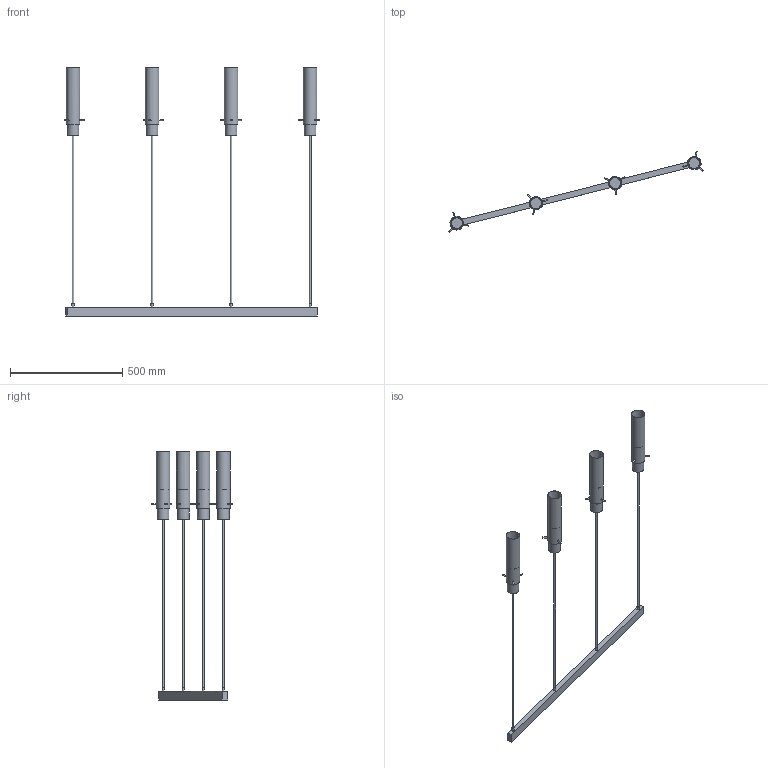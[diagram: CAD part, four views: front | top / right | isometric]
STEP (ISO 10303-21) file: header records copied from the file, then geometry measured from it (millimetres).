
FILE_DESCRIPTION(/* description */ (''),/* implementation_level */ '2;1');
FILE_NAME(/* name */ 'D:\TK Lighting\Look Graphite\3149\Look Graphite 3149.stp',/* time_stamp */ '2020-12-22T14:38:43+01:00',/* author */ ('Admin'),/* organization */ (''),/* preprocessor_version */ 'ST-DEVELOPER v16.5',/* originating_system */ 'Autodesk Inventor 2017',/* authorisation */ '');
FILE_SCHEMA (('AUTOMOTIVE_DESIGN { 1 0 10303 214 3 1 1 }'));
Products named in the file (7): Look Graphite 3149; Listwa montazowa 3149; zawiesie 3149; Lampa 3149; Klosz szklany 3149; lampa 3149_1; Lacznik 3147
Assembly tree (14 placements, depth 3):
  Look Graphite 3149
    Listwa montazowa 3149
    zawiesie 3149  x4
    Lampa 3149  x4
      Klosz szklany 3149
      lampa 3149_1
      Lacznik 3147
Bounding box: 1133.21 x 359.8 x 1105 mm (x, y, z)
Volume: 2621553.8 mm3; surface area: 714878.5 mm2
Topology: 25 solids, 25 shells, 134 faces, 200 edges, 136 vertices
Faces by surface type: plane 74, cylinder 60
Full cylindrical faces by diameter (mm): 5 x12, 5.5 x12, 6 x12, 8 x4, 10 x4, 48 x4, 52 x4, 58 x4, 60 x4
Entity records: 1415 total; most frequent: CARTESIAN_POINT 440, DIRECTION 176, ORIENTED_EDGE 88, AXIS2_PLACEMENT_3D 82, EDGE_LOOP 70, EDGE_CURVE 44, VERTEX_POINT 40, STYLED_ITEM 40
